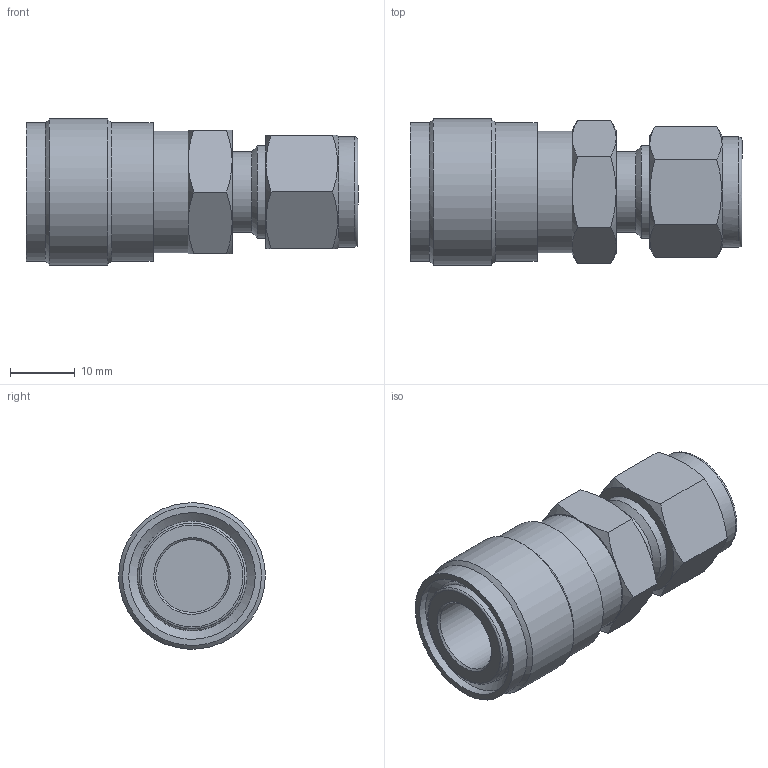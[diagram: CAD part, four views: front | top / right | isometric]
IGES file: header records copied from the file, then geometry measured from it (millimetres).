
Global section: file name: SFQC2B-S6; native system: Autodesk Inventor 2016; preprocessor: unknown; author: 이승민,,11,0; organization: 20170208.023653; date: 20170208.202859; units: millimetre
Bounding box: 51.22 x 22.6 x 22.56 mm (x, y, z)
Volume: 13033.4 mm3; surface area: 5418.5 mm2
Topology: 1 solids, 1 shells, 66 faces, 165 edges, 111 vertices
Faces by surface type: bspline 66
